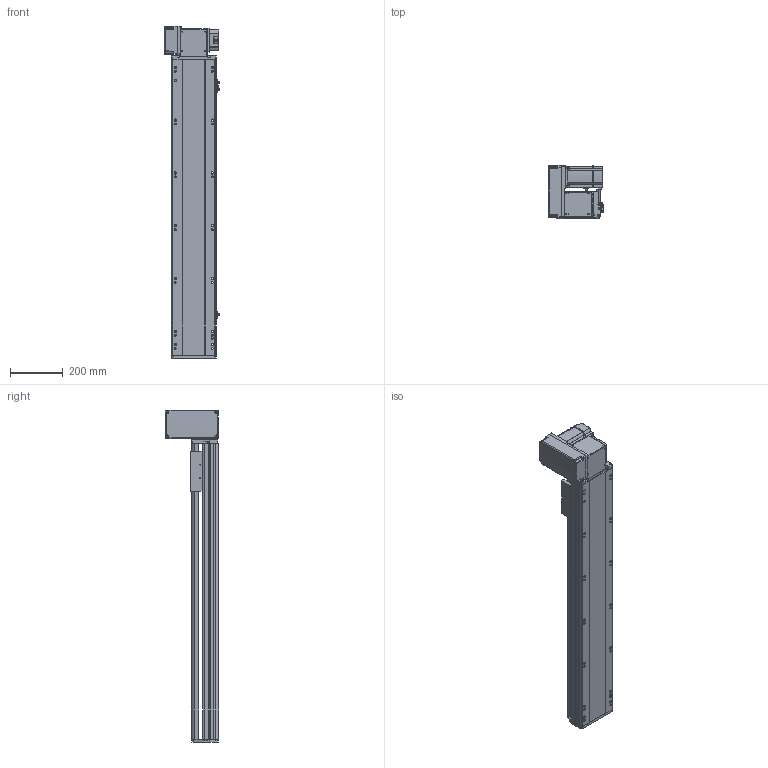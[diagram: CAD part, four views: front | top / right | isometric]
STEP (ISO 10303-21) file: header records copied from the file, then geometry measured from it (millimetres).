
FILE_DESCRIPTION (( 'STEP AP214' ), '1' );
FILE_NAME ('RTB17S-XX-850-LW-M75-C4.STEP', '2025-12-12T01:03:05', ( '' ), ( '' ), 'SwSTEP 2.0', 'SolidWorks 2018', '' );
FILE_SCHEMA (( 'AUTOMOTIVE_DESIGN' ));
Length unit declared in the file: millimetre
Products named in the file (15): RTB22S-GY-018P^RTB17S-LW-々湍釱蚾饜-750W_RTB17S-XX-XX-LW-M75-C4; RTB17-R-011菁釱^RTB17S-XX-XX-LW-M75-C4; RTB17S-L-014-T20-P75--々湍釱^RTB17S-LW-々湍釱蚾饜-750W_RTB17S-XX-XX-LW-M75-C4; RTB22S-GY-008-M75--萇儂啣^RTB17S-LW-々湍釱蚾饜-750W_RTB17S-XX-XX-LW-M75-C4; 750W萇儂^RTB17S-XX-XX-LW-M75-C4; RTB17S-L-004-賑釱^RTB17S-賑釱_RTB17S-XX-XX-LW-M75-C4; EE672^RTB17S-XX-XX-LW-M75-C4; RTB17S-L-007奻裔^RTB17S-XX-XX-LW-M75-C4; RTB17S-LW-々湍釱蚾饜-750W^RTB17S-XX-XX-LW-M75-C4; RTB17S-L-001-耜醱啣^RTB17S-XX-XX-LW-M75-C4; RTB17S-賑釱^RTB17S-XX-XX-LW-M75-C4; RTH13-BL-012覜茼え俋离^RTB17S-賑釱_RTB17S-XX-XX-LW-M75-C4; RTB22S-GY-017P^RTB17S-LW-々湍釱蚾饜-750W_RTB17S-XX-XX-LW-M75-C4; RTB22S-GY-005P^RTB17S-LW-々湍釱蚾饜-750W_RTB17S-XX-XX-LW-M75-C4; RTB17S-XX-850-LW-M75-C4
Assembly tree (17 placements, depth 3):
  RTB17S-XX-850-LW-M75-C4
    RTB17-R-011菁釱^RTB17S-XX-XX-LW-M75-C4
    EE672^RTB17S-XX-XX-LW-M75-C4  x3
    RTB17S-L-001-耜醱啣^RTB17S-XX-XX-LW-M75-C4
    RTB17S-賑釱^RTB17S-XX-XX-LW-M75-C4
      RTB17S-L-004-賑釱^RTB17S-賑釱_RTB17S-XX-XX-LW-M75-C4
      RTH13-BL-012覜茼え俋离^RTB17S-賑釱_RTB17S-XX-XX-LW-M75-C4
    RTB17S-L-007奻裔^RTB17S-XX-XX-LW-M75-C4
    750W萇儂^RTB17S-XX-XX-LW-M75-C4
    RTB17S-LW-々湍釱蚾饜-750W^RTB17S-XX-XX-LW-M75-C4
      RTB17S-L-014-T20-P75--々湍釱^RTB17S-LW-々湍釱蚾饜-750W_RTB17S-XX-XX-LW-M75-C4
      RTB22S-GY-005P^RTB17S-LW-々湍釱蚾饜-750W_RTB17S-XX-XX-LW-M75-C4
      RTB22S-GY-017P^RTB17S-LW-々湍釱蚾饜-750W_RTB17S-XX-XX-LW-M75-C4  x2
      RTB22S-GY-008-M75--萇儂啣^RTB17S-LW-々湍釱蚾饜-750W_RTB17S-XX-XX-LW-M75-C4
      RTB22S-GY-018P^RTB17S-LW-々湍釱蚾饜-750W_RTB17S-XX-XX-LW-M75-C4
Bounding box: 210.4 x 201.5 x 1257.5 mm (x, y, z)
Volume: 11258223 mm3; surface area: 1888468.3 mm2
Topology: 17 solids, 17 shells, 2089 faces, 5782 edges, 3734 vertices
Faces by surface type: plane 970, cylinder 703, bspline 294, cone 110, sphere 8, torus 4
Entity records: 58102 total; most frequent: CARTESIAN_POINT 17046, ORIENTED_EDGE 8408, DIRECTION 7862, EDGE_CURVE 4204, AXIS2_PLACEMENT_3D 2754, VERTEX_POINT 2738, VECTOR 2354, LINE 2354
